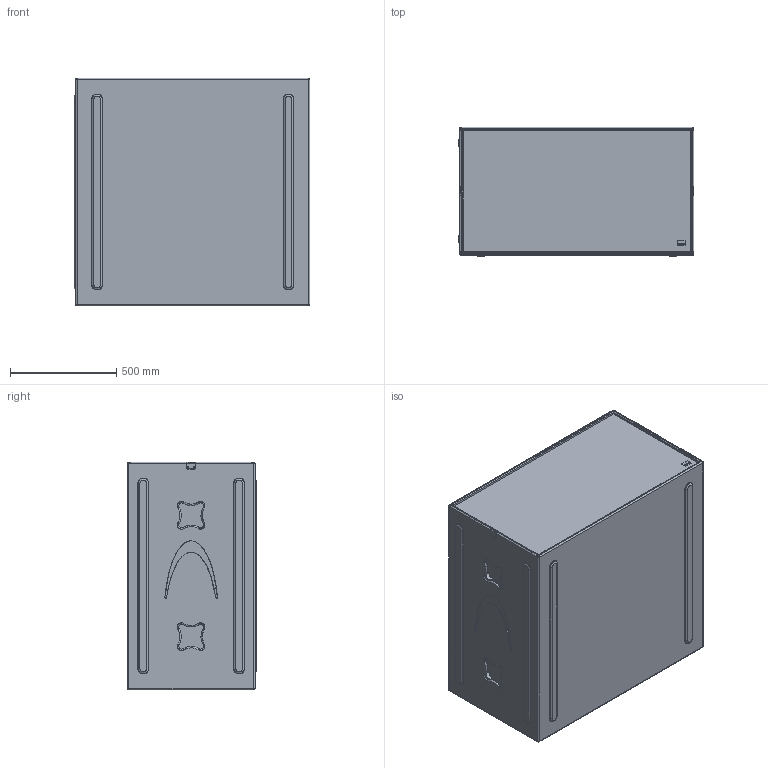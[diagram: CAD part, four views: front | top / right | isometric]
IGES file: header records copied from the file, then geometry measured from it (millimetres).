
Start section: SolidWorks IGES file using analytic representation for surfaces
Global section: file name: C:\Dokumente und Einstellungen\PC_Fabian\Desktop\Galeo_und_Co\Seeburg_GaleoXT-Sub.IGS; native system: SolidWorks 2009; preprocessor: SolidWorks 2009; author: PC_Fabian; date: 121017.112525; units: millimetre
Bounding box: 1108 x 608 x 1070 mm (x, y, z)
Surface area: 10468134.7 mm2 (no closed solid volume)
Topology: 0 solids, 0 shells, 713 faces, 9258 edges, 9250 vertices
Faces by surface type: bspline 414, revolution 299
